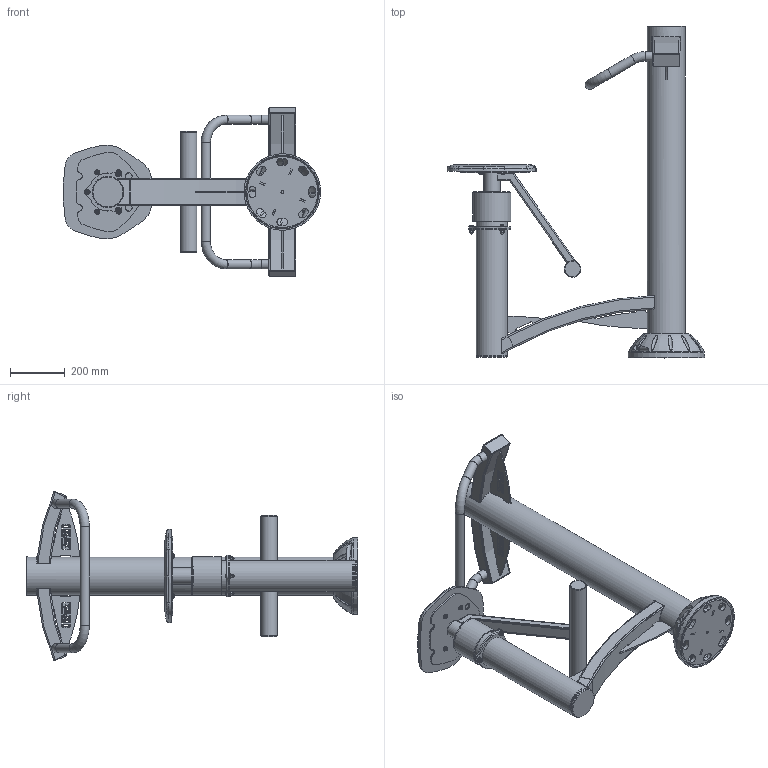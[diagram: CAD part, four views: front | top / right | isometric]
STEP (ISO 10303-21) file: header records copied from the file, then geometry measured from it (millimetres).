
FILE_DESCRIPTION (( 'STEP AP214' ), '1' );
FILE_NAME ('S0205 - TWISTER ASSIS SIMPLE V1.4.STEP', '2020-12-30T14:54:27', ( '' ), ( '' ), 'SwSTEP 2.0', 'SolidWorks 2020', '' );
FILE_SCHEMA (( 'AUTOMOTIVE_DESIGN' ));
Length unit declared in the file: millimetre
Products named in the file (56): SCH1806.A - Chapeau D135 V1.2; SUPDE-S0202 - SUPPORT PIVOT TWISTER DEBOUT ASS V1.1; SR0424 - Rondelle plate M20 zinguée; SCH1807 - Chapeau 96x46 V1.0; PU-TOLGOCTTW - Gousset contre tube D.114,3 Twister V1.0; SJO3101 - Joint à lèvres 40x55x8; SBU1023 - Pion plat long butée angulaire V1.0; SBU1027 - Pion plat pour butée conique V1.0; SCH1805 - Chapeau D56 V1.0; SR0416 - Rondelle plate petite M10 A2 ext 22mm; SR0415 - Rondelle Grower M8 A2; PU-TRETRAV570 - Tube rectangulaire cintré R1200 100x50x3 L570 V1.0; SBA1632 - Bague d.30 D.40 L12 V1.0; PLATPIVA-S0211 - PLATINE PIVOT TWISTER ASSIS V2.0; SB0112 - Vis Torx teton central M8x20_M8x20; PU-TDRFIT219 - Tole renfort Fitpark L219 H106 V1.0; SSD0720 - Dossier-siège V1.2; PLATINE BASE ASS V2.0; TRESUPI-S0211 - Support pied Twister assis V1.1; SSD0720 - SIEGE DOSSIER ASS V1.2_‚p.5 - Fixation siŠge; SR0404 - Rondelle plate Moyenne M8 A2; PU-TROCB1200TS - Colonne base haute D.139,7x3 Ht1200 Twister Simple V1.0; SBU1010 - Butee conique inox D.30 L=30; SR0448 - Rondelle pour écrou à encoches M20x1; SC0304 - CACHE PLATINE ASS V4.0; TROCGUI-C0601.A - Tube guidon Twister Stepper V1.1; SA1464 - Axe inox D.40 L213mm V1.0; SF1107 - Ecrou M8 zingué_default; SF1123 - Ecrou à encoches M20x1; TROCSPP102-30 - Support pion plat D.102 d.30 V1.0; TROND139,7X3 - Tube D.139,7x3 L=105 V1.0; TOLROND132-11 - Rondelle D.132 percée d.11 V1.0; TROSM-114-466 - Tube D.114,3x3 L=466 V1.0; SBA1631 - Bague 32006 L85 V1.0; TRELIACOL-S0202 - Tube liaison colonne Twister V1.0; TROND114.3X3 - Tube D.114,3x3 L=34 V1.0; TRECT-R750 - Tube rectangulaire cintré R750 100x50x3 L618 V1.0_Trous D.33,7 non traversant 1; PU-TOLGOCCOTW - Gousset contre colonne Twister V1.0; TROND-60-440 - Tube D.60,3x2,9 L=440 V1.0; TROCBRIA61 - Bride ajourée pour bague D.61 V1.0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
Assembly tree (91 placements, depth 4):
  S0205 - TWISTER ASSIS SIMPLE V1.4
    BATI-S0205 - BATI TWISTER ASSIS SIMPLE V1.1
      TROSM-114-466 - Tube D.114,3x3 L=466 V1.0
      PLATINE BASE ASS V2.0
        PU-TOLPLAT - Platine base V1.0
        PU-TOLGOPL - Gousset platine V2.0  x4
      PU-TROCB1200TS - Colonne base haute D.139,7x3 Ht1200 Twister Simple V1.0
      TRECT-R750 - Tube rectangulaire cintré R750 100x50x3 L618 V1.0_Trous D.33,7 non traversant 1
      PU-TDRFIT219 - Tole renfort Fitpark L219 H106 V1.0  x2
      SCH1807 - Chapeau 96x46 V1.0  x2
      PU-TRETRAV570 - Tube rectangulaire cintré R1200 100x50x3 L570 V1.0
      TRELIACOL-S0202 - Tube liaison colonne Twister V1.0
      TROCGUI-C0601.A - Tube guidon Twister Stepper V1.1
      SCH1806.A - Chapeau D135 V1.2
      PU-TOLGOCTTW - Gousset contre tube D.114,3 Twister V1.0
      PU-TOLGOCCOTW - Gousset contre colonne Twister V1.0
      TROCBRIA114 - Bride ajourée pour tube D.114 V1.0
    SC0304 - CACHE PLATINE ASS V4.0
      SC0304 - Demi cache platine D140 V4.0
      SB0112 - Vis Torx teton central M8x20_M8x20  x2
    SBO2200 - Bouchon tube D.114,3 V1.0
    PLATPIVA-S0211 - PLATINE PIVOT TWISTER ASSIS V2.0
      TOLROND132-11 - Rondelle D.132 percée d.11 V1.0
      SBA1610 - Bague Twister pour axe D.20 V1.0
      SA1464 - Axe inox D.40 L213mm V1.0
      TROCSPP102-30 - Support pion plat D.102 d.30 V1.0
      SR0416 - Rondelle plate petite M10 A2 ext 22mm
      SF1101 - Ecrou frein M10 A2
      TROSM-50-30 - Tube D.50x2,5 L=30 V1.0
      SBU1023 - Pion plat long butée angulaire V1.0
      TROND139,7X3 - Tube D.139,7x3 L=105 V1.0
      SBA1632 - Bague d.30 D.40 L12 V1.0
      SR0448 - Rondelle pour écrou à encoches M20x1
      SR0424 - Rondelle plate M20 zinguée
      SF1123 - Ecrou à encoches M20x1
      SCH1805 - Chapeau D56 V1.0  x2
      TROND-60-440 - Tube D.60,3x2,9 L=440 V1.0
      TRESUPI-S0211 - Support pied Twister assis V1.1
      SSD0714.B - Support siège béton Twister Assis V1.2
      TROSM-60-70 - Tube D.60,3x2,9 L=70 V1.0
    SSD0720 - SIEGE DOSSIER ASS V1.2_‚p.5 - Fixation siŠge
      SSD0720 - Dossier-siège V1.2
      SR0404 - Rondelle plate Moyenne M8 A2  x4
      SB0112 - Vis Torx teton central M8x20_M8x20  x4
      SR0415 - Rondelle Grower M8 A2  x4
    SUPDE-S0202 - SUPPORT PIVOT TWISTER DEBOUT ASS V1.1
      TROCBRIA61 - Bride ajourée pour bague D.61 V1.0
      TROND114.3X3 - Tube D.114,3x3 L=34 V1.0
      TROCSDPP107-61T - Support double pions plat pour Twister D.107 d.61 V1.1
      SBA1631 - Bague 32006 L85 V1.0
      SBU1027 - Pion plat pour butée conique V1.0  x2
    SR0404 - Rondelle plate Moyenne M8 A2  x8
    SB0113 - Vis Torx teton central M8x25_M8x20  x3
    SF1110 - Ecrou borgne frein M8 A2  x3
    SF1107 - Ecrou M8 zingué_default  x2
    SR0415 - Rondelle Grower M8 A2  x2
    SBU1010 - Butee conique inox D.30 L=30  x2
    SJO3101 - Joint à lèvres 40x55x8  x2
    SRR0827 - Roulement 32006 30x55x17 conique à rouleaux  x2
Bounding box: 943.8 x 1218 x 621.97 mm (x, y, z)
Volume: 8509014.1 mm3; surface area: 3773925.2 mm2
Topology: 90 solids, 90 shells, 2313 faces, 5623 edges, 3626 vertices
Faces by surface type: plane 810, cylinder 575, bspline 430, cone 421, torus 77
Full cylindrical faces by diameter (mm): 1.8 x9, 6.647 x5, 6.75 x2, 6.8 x8, 6.95 x9, 8 x14, 8.376 x2, 8.4 x12, 8.7 x2, 9.2 x9, 9.3 x2, 9.5 x4, 10 x2, 10.5 x5, 10.8 x2, 11.5 x1, 17 x1, 18 x12, 18.5 x1, 20 x1, 20.1 x1, 21 x1, 22 x1, 25 x2, 27.9 x5, 30 x5, 30.2 x1, 30.3 x1, 33.7 x5, 35 x3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
Entity records: 126714 total; most frequent: CARTESIAN_POINT 90535, ORIENTED_EDGE 7044, DIRECTION 6385, EDGE_CURVE 3522, AXIS2_PLACEMENT_3D 2628, VERTEX_POINT 2356, EDGE_LOOP 1962, FACE_OUTER_BOUND 1677
